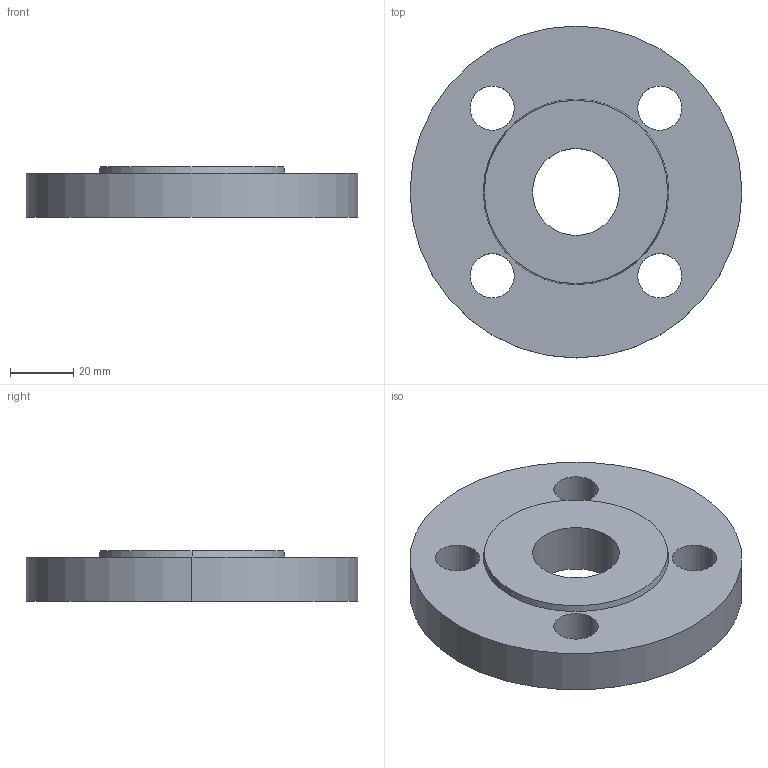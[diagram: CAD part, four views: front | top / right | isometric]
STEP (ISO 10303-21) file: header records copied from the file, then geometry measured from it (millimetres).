
FILE_DESCRIPTION (( 'STEP AP214' ), '1' );
FILE_NAME ('PN40 DN20 Type 01 - Type B Face.STEP', '2018-12-29T18:35:14', ( '' ), ( '' ), 'SwSTEP 2.0', 'SolidWorks 2019', '' );
FILE_SCHEMA (( 'AUTOMOTIVE_DESIGN' ));
Length unit declared in the file: millimetre
Products named in the file (1): PN40 DN20 Type 01 - Type B Face
Bounding box: 105 x 105 x 16 mm (x, y, z)
Volume: 108451 mm3; surface area: 23669.7 mm2
Topology: 1 solids, 1 shells, 17 faces, 42 edges, 28 vertices
Faces by surface type: cylinder 12, plane 3, cone 2
Entity records: 578 total; most frequent: DIRECTION 106, CARTESIAN_POINT 88, ORIENTED_EDGE 84, AXIS2_PLACEMENT_3D 46, EDGE_CURVE 42, CIRCLE 28, EDGE_LOOP 28, VERTEX_POINT 28
